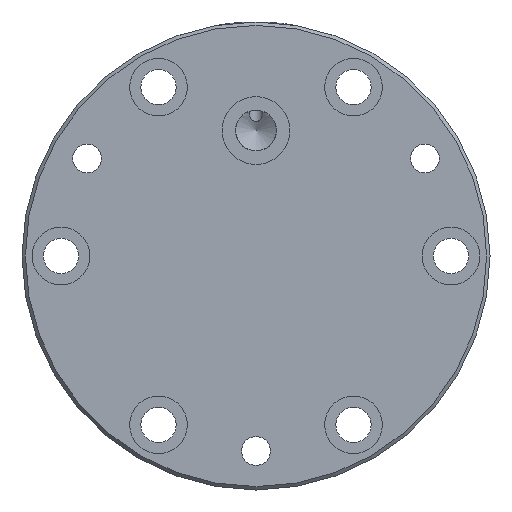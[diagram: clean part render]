
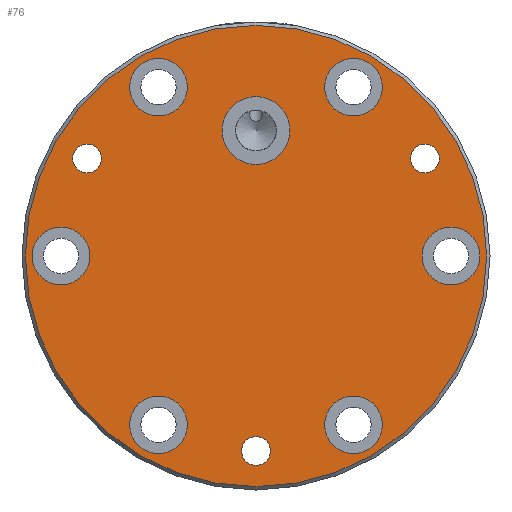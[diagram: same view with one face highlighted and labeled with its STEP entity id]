
A CAD part, left-side view. The second image highlights one B-rep face of the part: STEP entity #76.
In plain terms, the highlighted planar face has unit normal (-1, 0, 0).
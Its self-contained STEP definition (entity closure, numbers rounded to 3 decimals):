
#76 = ADVANCED_FACE( '', ( #122, #123, #124, #125, #126, #127, #128, #129, #130, #131, #132 ), #133, .T. );
#122 = FACE_BOUND( '', #269, .T. );
#123 = FACE_BOUND( '', #270, .T. );
#124 = FACE_BOUND( '', #271, .T. );
#125 = FACE_BOUND( '', #272, .T. );
#126 = FACE_BOUND( '', #273, .T. );
#127 = FACE_BOUND( '', #274, .T. );
#128 = FACE_BOUND( '', #275, .T. );
#129 = FACE_BOUND( '', #276, .T. );
#130 = FACE_BOUND( '', #277, .T. );
#131 = FACE_OUTER_BOUND( '', #278, .T. );
#132 = FACE_BOUND( '', #279, .T. );
#133 = PLANE( '', #280 );
#269 = EDGE_LOOP( '', ( #418 ) );
#270 = EDGE_LOOP( '', ( #419 ) );
#271 = EDGE_LOOP( '', ( #420 ) );
#272 = EDGE_LOOP( '', ( #421 ) );
#273 = EDGE_LOOP( '', ( #422 ) );
#274 = EDGE_LOOP( '', ( #423 ) );
#275 = EDGE_LOOP( '', ( #424 ) );
#276 = EDGE_LOOP( '', ( #425 ) );
#277 = EDGE_LOOP( '', ( #426 ) );
#278 = EDGE_LOOP( '', ( #427 ) );
#279 = EDGE_LOOP( '', ( #428 ) );
#280 = AXIS2_PLACEMENT_3D( '', #429, #430, #431 );
#418 = ORIENTED_EDGE( '', *, *, #651, .F. );
#419 = ORIENTED_EDGE( '', *, *, #652, .F. );
#420 = ORIENTED_EDGE( '', *, *, #653, .F. );
#421 = ORIENTED_EDGE( '', *, *, #654, .T. );
#422 = ORIENTED_EDGE( '', *, *, #655, .T. );
#423 = ORIENTED_EDGE( '', *, *, #656, .T. );
#424 = ORIENTED_EDGE( '', *, *, #657, .T. );
#425 = ORIENTED_EDGE( '', *, *, #658, .T. );
#426 = ORIENTED_EDGE( '', *, *, #659, .T. );
#427 = ORIENTED_EDGE( '', *, *, #660, .T. );
#428 = ORIENTED_EDGE( '', *, *, #661, .T. );
#429 = CARTESIAN_POINT( '', ( 0., 0., 0. ) );
#430 = DIRECTION( '', ( -1., 0., 0. ) );
#431 = DIRECTION( '', ( 0., 0., 1. ) );
#651 = EDGE_CURVE( '', #707, #707, #708, .T. );
#652 = EDGE_CURVE( '', #709, #709, #710, .T. );
#653 = EDGE_CURVE( '', #711, #711, #712, .T. );
#654 = EDGE_CURVE( '', #713, #713, #714, .T. );
#655 = EDGE_CURVE( '', #715, #715, #716, .T. );
#656 = EDGE_CURVE( '', #717, #717, #718, .T. );
#657 = EDGE_CURVE( '', #719, #719, #720, .T. );
#658 = EDGE_CURVE( '', #721, #721, #722, .T. );
#659 = EDGE_CURVE( '', #723, #723, #724, .T. );
#660 = EDGE_CURVE( '', #725, #725, #726, .T. );
#661 = EDGE_CURVE( '', #727, #727, #728, .T. );
#707 = VERTEX_POINT( '', #812 );
#708 = CIRCLE( '', #813, 4.25 );
#709 = VERTEX_POINT( '', #814 );
#710 = CIRCLE( '', #815, 4.25 );
#711 = VERTEX_POINT( '', #816 );
#712 = CIRCLE( '', #817, 4.25 );
#713 = VERTEX_POINT( '', #818 );
#714 = CIRCLE( '', #819, 8.5 );
#715 = VERTEX_POINT( '', #820 );
#716 = CIRCLE( '', #821, 8.5 );
#717 = VERTEX_POINT( '', #822 );
#718 = CIRCLE( '', #823, 8.5 );
#719 = VERTEX_POINT( '', #824 );
#720 = CIRCLE( '', #825, 8.5 );
#721 = VERTEX_POINT( '', #826 );
#722 = CIRCLE( '', #827, 8.5 );
#723 = VERTEX_POINT( '', #828 );
#724 = CIRCLE( '', #829, 8.5 );
#725 = VERTEX_POINT( '', #830 );
#726 = CIRCLE( '', #831, 68. );
#727 = VERTEX_POINT( '', #832 );
#728 = CIRCLE( '', #833, 10. );
#812 = CARTESIAN_POINT( '', ( 0., 4.25, -57.5 ) );
#813 = AXIS2_PLACEMENT_3D( '', #1071, #1072, #1073 );
#814 = CARTESIAN_POINT( '', ( 0., 54.046, 28.75 ) );
#815 = AXIS2_PLACEMENT_3D( '', #1074, #1075, #1076 );
#816 = CARTESIAN_POINT( '', ( 0., -45.546, 28.75 ) );
#817 = AXIS2_PLACEMENT_3D( '', #1077, #1078, #1079 );
#818 = CARTESIAN_POINT( '', ( 0., 28.75, 58.296 ) );
#819 = AXIS2_PLACEMENT_3D( '', #1080, #1081, #1082 );
#820 = CARTESIAN_POINT( '', ( 0., -28.75, 58.296 ) );
#821 = AXIS2_PLACEMENT_3D( '', #1083, #1084, #1085 );
#822 = CARTESIAN_POINT( '', ( 0., -57.5, 8.5 ) );
#823 = AXIS2_PLACEMENT_3D( '', #1086, #1087, #1088 );
#824 = CARTESIAN_POINT( '', ( 0., -28.75, -41.296 ) );
#825 = AXIS2_PLACEMENT_3D( '', #1089, #1090, #1091 );
#826 = CARTESIAN_POINT( '', ( 0., 28.75, -41.296 ) );
#827 = AXIS2_PLACEMENT_3D( '', #1092, #1093, #1094 );
#828 = CARTESIAN_POINT( '', ( 0., 57.5, 8.5 ) );
#829 = AXIS2_PLACEMENT_3D( '', #1095, #1096, #1097 );
#830 = CARTESIAN_POINT( '', ( 0., 0., 68. ) );
#831 = AXIS2_PLACEMENT_3D( '', #1098, #1099, #1100 );
#832 = CARTESIAN_POINT( '', ( 0., 10., 37. ) );
#833 = AXIS2_PLACEMENT_3D( '', #1101, #1102, #1103 );
#1071 = CARTESIAN_POINT( '', ( 0., 0., -57.5 ) );
#1072 = DIRECTION( '', ( -1., 0., 0. ) );
#1073 = DIRECTION( '', ( 0., 1., 0. ) );
#1074 = CARTESIAN_POINT( '', ( 0., 49.796, 28.75 ) );
#1075 = DIRECTION( '', ( -1., 0., 0. ) );
#1076 = DIRECTION( '', ( 0., 1., 0. ) );
#1077 = CARTESIAN_POINT( '', ( 0., -49.796, 28.75 ) );
#1078 = DIRECTION( '', ( -1., 0., 0. ) );
#1079 = DIRECTION( '', ( 0., 1., 0. ) );
#1080 = CARTESIAN_POINT( '', ( 0., 28.75, 49.796 ) );
#1081 = DIRECTION( '', ( 1., 0., 0. ) );
#1082 = DIRECTION( '', ( 0., 0., 1. ) );
#1083 = CARTESIAN_POINT( '', ( 0., -28.75, 49.796 ) );
#1084 = DIRECTION( '', ( 1., 0., 0. ) );
#1085 = DIRECTION( '', ( 0., 0., 1. ) );
#1086 = CARTESIAN_POINT( '', ( 0., -57.5, 0. ) );
#1087 = DIRECTION( '', ( 1., 0., 0. ) );
#1088 = DIRECTION( '', ( 0., 0., 1. ) );
#1089 = CARTESIAN_POINT( '', ( 0., -28.75, -49.796 ) );
#1090 = DIRECTION( '', ( 1., 0., 0. ) );
#1091 = DIRECTION( '', ( 0., 0., 1. ) );
#1092 = CARTESIAN_POINT( '', ( 0., 28.75, -49.796 ) );
#1093 = DIRECTION( '', ( 1., 0., 0. ) );
#1094 = DIRECTION( '', ( 0., 0., 1. ) );
#1095 = CARTESIAN_POINT( '', ( 0., 57.5, 0. ) );
#1096 = DIRECTION( '', ( 1., 0., 0. ) );
#1097 = DIRECTION( '', ( 0., 0., 1. ) );
#1098 = CARTESIAN_POINT( '', ( 0., 0., 0. ) );
#1099 = DIRECTION( '', ( -1., 0., 0. ) );
#1100 = DIRECTION( '', ( 0., 0., 1. ) );
#1101 = CARTESIAN_POINT( '', ( 0., 0., 37. ) );
#1102 = DIRECTION( '', ( 1., 0., 0. ) );
#1103 = DIRECTION( '', ( 0., 1., 0. ) );
